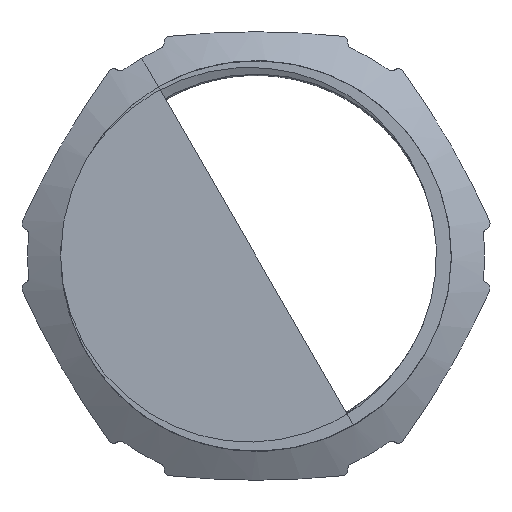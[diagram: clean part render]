
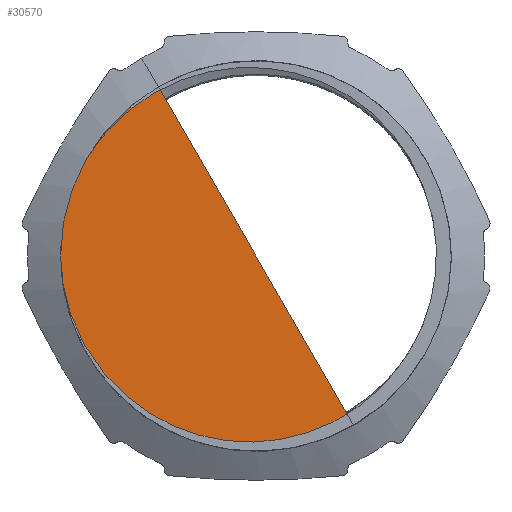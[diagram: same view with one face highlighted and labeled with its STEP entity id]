
A CAD part, left-side view. The second image highlights one B-rep face of the part: STEP entity #30570.
In plain terms, the highlighted planar face has unit normal (1, 0, 0).
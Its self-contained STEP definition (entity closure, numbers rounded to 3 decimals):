
#7500=CARTESIAN_POINT('',(-124.612,302.511,18.147)
);
#7510=VERTEX_POINT('',#7500);
#7540=CARTESIAN_POINT('',(-124.612,292.033,
0.));
#7550=DIRECTION('',(-1.,0.,0.));
#7560=DIRECTION('',(0.,-0.5,
-0.866));
#7570=AXIS2_PLACEMENT_3D('',#7540,#7550,#7560);
#7580=CIRCLE('',#7570,20.955);
#7590=CARTESIAN_POINT('',(-124.612,302.511,18.147))
;
#7600=VERTEX_POINT('',#7590);
#7610=EDGE_CURVE('',#7600,#7510,#7580,.T.);
#11110=CARTESIAN_POINT('',(-124.612,281.556,
-18.148));
#11120=VERTEX_POINT('',#11110);
#30360=CARTESIAN_POINT('',(-124.612,302.187,17.587
));
#30370=DIRECTION('',(1.,0.,0.));
#30380=DIRECTION('',(0.,0.5,
0.866));
#30390=AXIS2_PLACEMENT_3D('',#30360,#30370,#30380);
#30400=PLANE('',#30390);
#30410=CARTESIAN_POINT('',(-124.612,292.033,
0.));
#30420=DIRECTION('',(1.,0.,0.));
#30430=DIRECTION('',(0.,-0.866,
0.5));
#30440=AXIS2_PLACEMENT_3D('',#30410,#30420,#30430);
#30450=CIRCLE('',#30440,20.955);
#30460=CARTESIAN_POINT('',(-124.612,310.181,
-10.478));
#30470=VERTEX_POINT('',#30460);
#30480=EDGE_CURVE('',#11120,#30470,#30450,.T.);
#30490=ORIENTED_EDGE('',*,*,#30480,.F.);
#30500=EDGE_CURVE('',#30470,#7600,#30450,.T.);
#30510=ORIENTED_EDGE('',*,*,#30500,.F.);
#30520=ORIENTED_EDGE('',*,*,#7610,.F.);
#30530=EDGE_CURVE('',#7510,#11120,#7580,.T.);
#30540=ORIENTED_EDGE('',*,*,#30530,.F.);
#30550=EDGE_LOOP('',(#30540,#30520,#30510,#30490));
#30560=FACE_OUTER_BOUND('',#30550,.T.);
#30570=ADVANCED_FACE('',(#30560),#30400,.T.);
